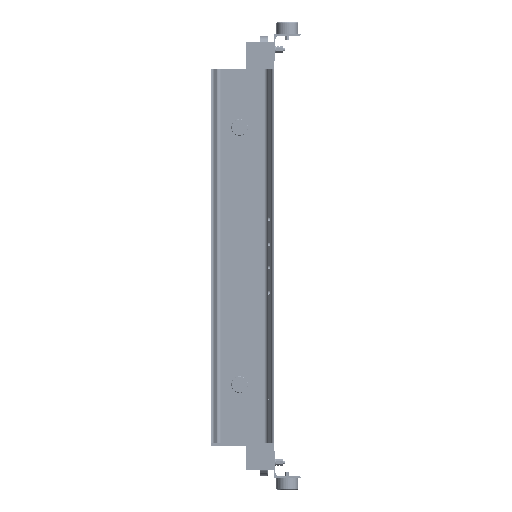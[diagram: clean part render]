
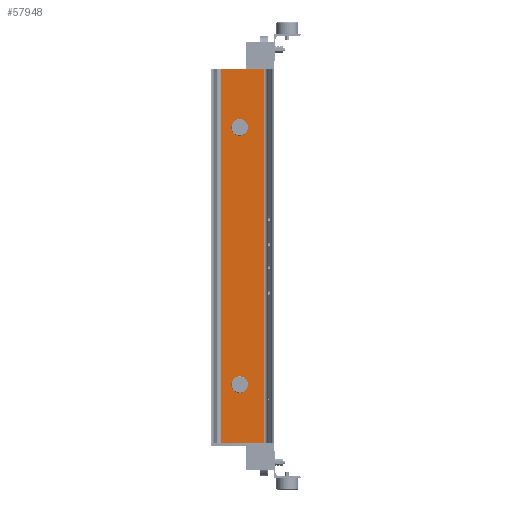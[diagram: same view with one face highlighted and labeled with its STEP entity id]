
A CAD part, left-side view. The second image highlights one B-rep face of the part: STEP entity #57948.
In plain terms, the highlighted planar face has unit normal (-1, 0, 0) as drawn and (1, 0, 0) by its records, which use the part's own axes.
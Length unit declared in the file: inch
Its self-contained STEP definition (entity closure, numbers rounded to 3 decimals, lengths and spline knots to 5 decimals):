
#139 = LINE ( 'NONE', #48427, #154 ) ;
#154 = VECTOR ( 'NONE', #19996, 39.37008 ) ;
#2200 = AXIS2_PLACEMENT_3D ( 'NONE', #50333, #41018, #6549 ) ;
#2847 = VECTOR ( 'NONE', #51755, 39.37008 ) ;
#3437 = ORIENTED_EDGE ( 'NONE', *, *, #4959, .F. ) ;
#4959 = EDGE_CURVE ( 'NONE', #30936, #61369, #139, .T. ) ;
#6549 = DIRECTION ( 'NONE',  ( 0., 1., 0. ) ) ;
#7064 = CARTESIAN_POINT ( 'NONE',  ( 0.375, 4.356, -16.5 ) ) ;
#10120 = CARTESIAN_POINT ( 'NONE',  ( 0.375, 6.76976, 24. ) ) ;
#11513 = VERTEX_POINT ( 'NONE', #53655 ) ;
#12498 = DIRECTION ( 'NONE',  ( 1., 0., 0. ) ) ;
#12655 = ORIENTED_EDGE ( 'NONE', *, *, #28271, .F. ) ;
#12903 = DIRECTION ( 'NONE',  ( 1., 0., 0. ) ) ;
#13068 = LINE ( 'NONE', #50484, #2847 ) ;
#13118 = CARTESIAN_POINT ( 'NONE',  ( 0.375, 6.76976, -24. ) ) ;
#13982 = PLANE ( 'NONE',  #57901 ) ;
#14302 = DIRECTION ( 'NONE',  ( 1., 0., 0. ) ) ;
#14418 = AXIS2_PLACEMENT_3D ( 'NONE', #7064, #12498, #26555 ) ;
#14812 = LINE ( 'NONE', #23762, #27254 ) ;
#19996 = DIRECTION ( 'NONE',  ( 0., 0., -1. ) ) ;
#21968 = CIRCLE ( 'NONE', #33164, 0.986 ) ;
#23276 = CIRCLE ( 'NONE', #23412, 0.986 ) ;
#23386 = CARTESIAN_POINT ( 'NONE',  ( 0.375, 5.342, 16.5 ) ) ;
#23412 = AXIS2_PLACEMENT_3D ( 'NONE', #59472, #50497, #36381 ) ;
#23762 = CARTESIAN_POINT ( 'NONE',  ( 0.375, 6.76976, 24. ) ) ;
#24221 = FACE_OUTER_BOUND ( 'NONE', #47164, .T. ) ;
#26555 = DIRECTION ( 'NONE',  ( 0., 1., 0. ) ) ;
#27254 = VECTOR ( 'NONE', #34273, 39.37008 ) ;
#27518 = ORIENTED_EDGE ( 'NONE', *, *, #50738, .F. ) ;
#28271 = EDGE_CURVE ( 'NONE', #61369, #41072, #56922, .T. ) ;
#30936 = VERTEX_POINT ( 'NONE', #46681 ) ;
#31241 = ORIENTED_EDGE ( 'NONE', *, *, #59804, .T. ) ;
#32013 = EDGE_CURVE ( 'NONE', #34150, #41072, #13068, .T. ) ;
#32580 = DIRECTION ( 'NONE',  ( 0., -1., 0. ) ) ;
#32865 = VERTEX_POINT ( 'NONE', #55901 ) ;
#33164 = AXIS2_PLACEMENT_3D ( 'NONE', #56372, #12903, #62119 ) ;
#33265 = EDGE_CURVE ( 'NONE', #11513, #39009, #23276, .T. ) ;
#33770 = DIRECTION ( 'NONE',  ( 0., 0., -1. ) ) ;
#34150 = VERTEX_POINT ( 'NONE', #37500 ) ;
#34273 = DIRECTION ( 'NONE',  ( 0., -1., 0. ) ) ;
#34582 = CARTESIAN_POINT ( 'NONE',  ( 0.375, 3.37, -16.5 ) ) ;
#35695 = ORIENTED_EDGE ( 'NONE', *, *, #38588, .F. ) ;
#36381 = DIRECTION ( 'NONE',  ( 0., 1., 0. ) ) ;
#37500 = CARTESIAN_POINT ( 'NONE',  ( 0.375, 1.23024, 24. ) ) ;
#38293 = ORIENTED_EDGE ( 'NONE', *, *, #33265, .F. ) ;
#38588 = EDGE_CURVE ( 'NONE', #42899, #32865, #42018, .T. ) ;
#38877 = CIRCLE ( 'NONE', #14418, 0.986 ) ;
#39009 = VERTEX_POINT ( 'NONE', #23386 ) ;
#41018 = DIRECTION ( 'NONE',  ( 1., 0., 0. ) ) ;
#41072 = VERTEX_POINT ( 'NONE', #58753 ) ;
#42018 = CIRCLE ( 'NONE', #2200, 0.986 ) ;
#42548 = ORIENTED_EDGE ( 'NONE', *, *, #32013, .T. ) ;
#42899 = VERTEX_POINT ( 'NONE', #34582 ) ;
#43117 = EDGE_CURVE ( 'NONE', #32865, #42899, #38877, .T. ) ;
#46681 = CARTESIAN_POINT ( 'NONE',  ( 0.375, 6.76976, 24. ) ) ;
#47164 = EDGE_LOOP ( 'NONE', ( #12655, #3437, #31241, #42548 ) ) ;
#47329 = ORIENTED_EDGE ( 'NONE', *, *, #43117, .F. ) ;
#48427 = CARTESIAN_POINT ( 'NONE',  ( 0.375, 6.76976, 24. ) ) ;
#48867 = EDGE_LOOP ( 'NONE', ( #47329, #35695 ) ) ;
#50333 = CARTESIAN_POINT ( 'NONE',  ( 0.375, 4.356, -16.5 ) ) ;
#50484 = CARTESIAN_POINT ( 'NONE',  ( 0.375, 1.23024, 24. ) ) ;
#50497 = DIRECTION ( 'NONE',  ( 1., 0., 0. ) ) ;
#50738 = EDGE_CURVE ( 'NONE', #39009, #11513, #21968, .T. ) ;
#51755 = DIRECTION ( 'NONE',  ( 0., 0., -1. ) ) ;
#52150 = CARTESIAN_POINT ( 'NONE',  ( 0.375, 6.76976, -24. ) ) ;
#53431 = VECTOR ( 'NONE', #32580, 39.37008 ) ;
#53655 = CARTESIAN_POINT ( 'NONE',  ( 0.375, 3.37, 16.5 ) ) ;
#55901 = CARTESIAN_POINT ( 'NONE',  ( 0.375, 5.342, -16.5 ) ) ;
#56372 = CARTESIAN_POINT ( 'NONE',  ( 0.375, 4.356, 16.5 ) ) ;
#56922 = LINE ( 'NONE', #13118, #53431 ) ;
#57791 = FACE_BOUND ( 'NONE', #57865, .T. ) ;
#57865 = EDGE_LOOP ( 'NONE', ( #27518, #38293 ) ) ;
#57901 = AXIS2_PLACEMENT_3D ( 'NONE', #10120, #14302, #33770 ) ;
#57948 = ADVANCED_FACE ( 'NONE', ( #59041, #57791, #24221 ), #13982, .T. ) ;
#58753 = CARTESIAN_POINT ( 'NONE',  ( 0.375, 1.23024, -24. ) ) ;
#59041 = FACE_BOUND ( 'NONE', #48867, .T. ) ;
#59472 = CARTESIAN_POINT ( 'NONE',  ( 0.375, 4.356, 16.5 ) ) ;
#59804 = EDGE_CURVE ( 'NONE', #30936, #34150, #14812, .T. ) ;
#61369 = VERTEX_POINT ( 'NONE', #52150 ) ;
#62119 = DIRECTION ( 'NONE',  ( 0., 1., 0. ) ) ;
